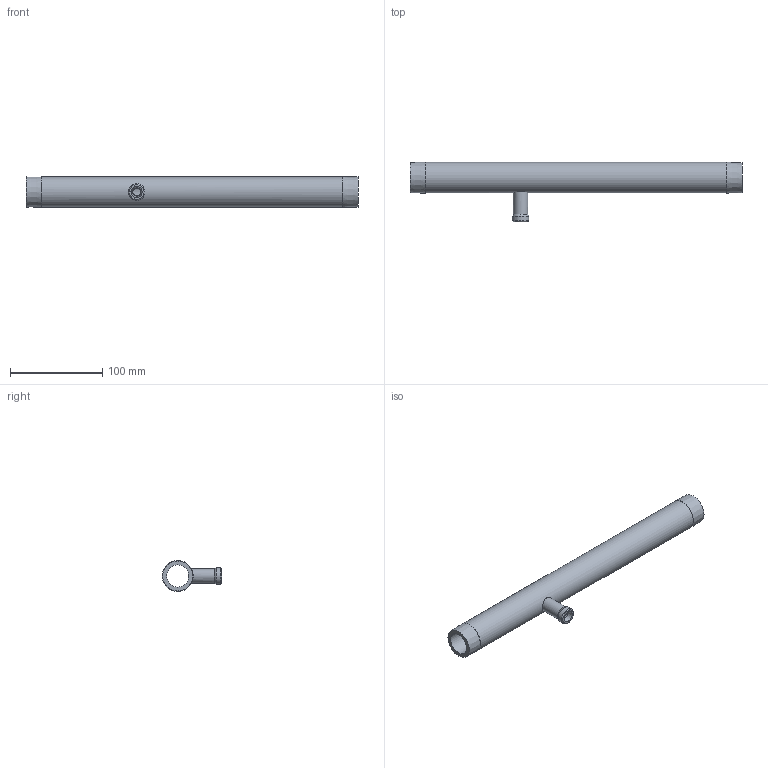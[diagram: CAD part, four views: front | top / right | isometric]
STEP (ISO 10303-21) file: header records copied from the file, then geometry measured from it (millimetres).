
FILE_DESCRIPTION( ( 'STEP AP203' ), '1' );
FILE_NAME( 'p:/temp/worker_107/temp/exporttempdir_5460_1136_4eWxo/format_5/E40279.stp', '2022-02-08T09:17:51', ( 'License CC BY-ND 4.0' ), ( 'CADENAS' ), ' ', 'PARTsolutions', ' ' );
FILE_SCHEMA( ( 'CONFIG_CONTROL_DESIGN' ) );
Length unit declared in the file: millimetre
Products named in the file (1): _E40279
Bounding box: 360 x 64.72 x 33.65 mm (x, y, z)
Volume: 149569.1 mm3; surface area: 67865.4 mm2
Topology: 1 solids, 1 shells, 17 faces, 29 edges, 18 vertices
Faces by surface type: cylinder 6, plane 6, cone 5
Full cylindrical faces by diameter (mm): 8.4 x1, 10 x1, 15.7 x1, 18 x1, 24 x1, 33 x1
Entity records: 557 total; most frequent: CARTESIAN_POINT 211, DIRECTION 68, EDGE_LOOP 36, ORIENTED_EDGE 36, AXIS2_PLACEMENT_3D 34, FACE_OUTER_BOUND 23, EDGE_CURVE 18, VERTEX_POINT 18
